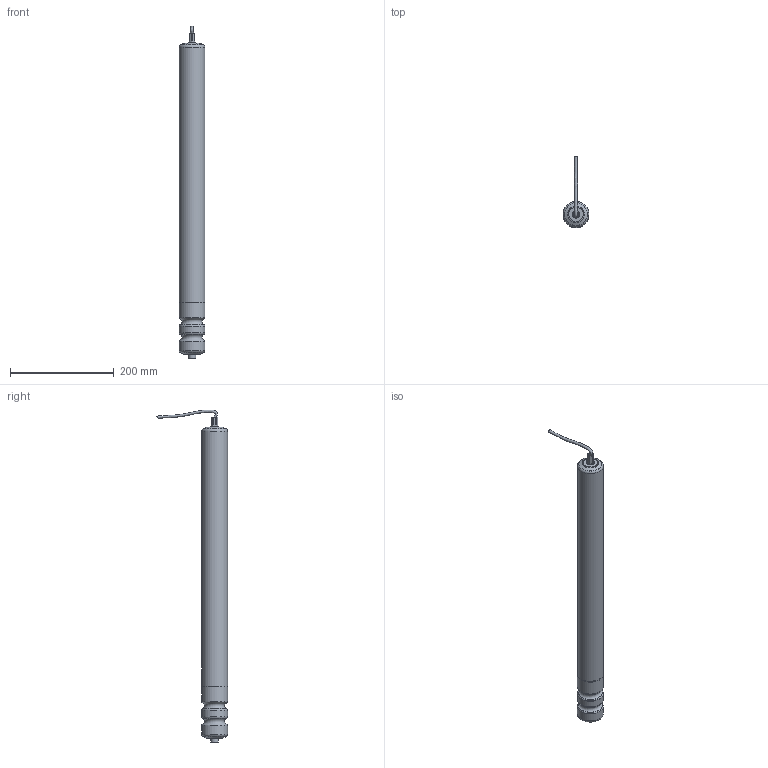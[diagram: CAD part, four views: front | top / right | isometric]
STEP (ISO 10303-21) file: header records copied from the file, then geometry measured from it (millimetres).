
FILE_DESCRIPTION(/* description */ ('Motorrol EC310 i=24'),/* implementation_level */ '2;1');
FILE_NAME(/* name */ 'EM8300050610-01.stp',/* time_stamp */ '2024-03-13T15:30:02+01:00',/* author */ ('rdegreef'),/* organization */ ('BCK Holland b.v.'),/* preprocessor_version */ 'ST-DEVELOPER v19.2',/* originating_system */ 'Autodesk Inventor 2023',/* authorisation */ '');
FILE_SCHEMA (('AUTOMOTIVE_DESIGN { 1 0 10303 214 3 1 1 }'));
Length unit declared in the file: millimetre
Products named in the file (1): EM8300050610
Bounding box: 50 x 137.12 x 640.91 mm (x, y, z)
Volume: 100449.8 mm3; surface area: 194792 mm2
Topology: 1 solids, 2 shells, 69 faces, 149 edges, 94 vertices
Faces by surface type: cylinder 22, plane 20, torus 20, cone 6, bspline 1
Full cylindrical faces by diameter (mm): 6.647 x1, 8.647 x1, 13 x2, 15 x2, 47.5 x1, 48 x4, 49.5 x1, 50 x4
Entity records: 2671 total; most frequent: CARTESIAN_POINT 945, DIRECTION 384, ORIENTED_EDGE 294, AXIS2_PLACEMENT_3D 169, EDGE_CURVE 147, CIRCLE 100, VERTEX_POINT 94, EDGE_LOOP 81
